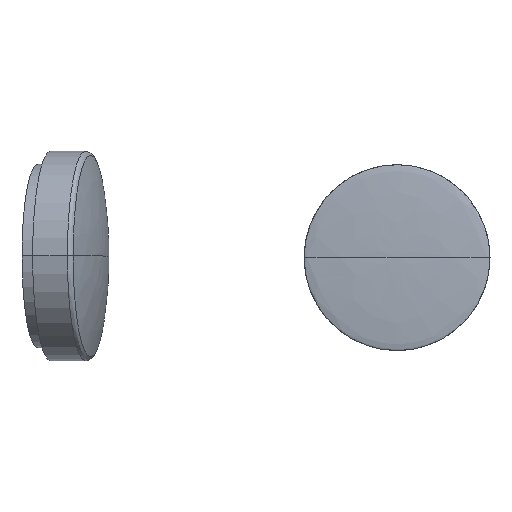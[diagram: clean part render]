
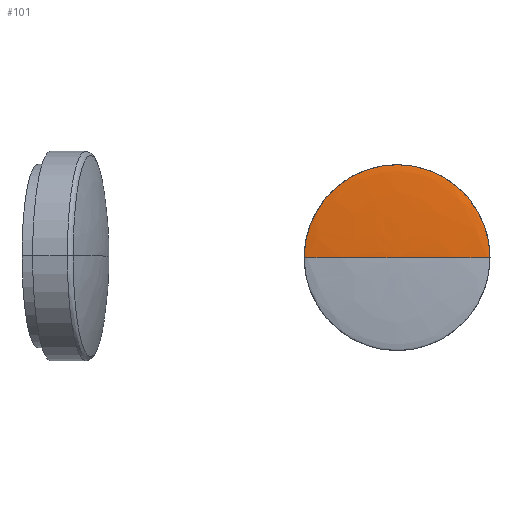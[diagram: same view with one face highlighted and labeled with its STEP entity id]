
A CAD part, top view. The second image highlights one B-rep face of the part: STEP entity #101.
In plain terms, the highlighted free-form (B-spline) face has degree [2, 2] with [5, 3] control points.
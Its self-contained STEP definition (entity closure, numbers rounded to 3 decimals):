
#25=CARTESIAN_POINT('',(275.4,350.,-457.2));
#26=VERTEX_POINT('',#25);
#27=CARTESIAN_POINT('',(240.0,350.,-455.25));
#28=VERTEX_POINT('',#27);
#29=CARTESIAN_POINT('',(275.4,350.,-457.2));
#30=CARTESIAN_POINT('',(275.4,350.,-455.25));
#31=CARTESIAN_POINT('',(240.0,350.,-455.25));
#39=(BOUNDED_CURVE()B_SPLINE_CURVE(2,(#29,#30,#31),.UNSPECIFIED.,.F.,.U.)CURVE()GEOMETRIC_REPRESENTATION_ITEM()QUASI_UNIFORM_CURVE()RATIONAL_B_SPLINE_CURVE((1.0,0.707,1.0))REPRESENTATION_ITEM(''));
#40=EDGE_CURVE('',#26,#28,#39,.T.);
#42=CARTESIAN_POINT('',(204.6,350.,-457.2));
#43=VERTEX_POINT('',#42);
#44=CARTESIAN_POINT('',(204.6,350.,-457.2));
#45=CARTESIAN_POINT('',(204.6,350.,-455.25));
#46=CARTESIAN_POINT('',(240.0,350.,-455.25));
#54=(BOUNDED_CURVE()B_SPLINE_CURVE(2,(#44,#45,#46),.UNSPECIFIED.,.F.,.U.)CURVE()GEOMETRIC_REPRESENTATION_ITEM()QUASI_UNIFORM_CURVE()RATIONAL_B_SPLINE_CURVE((1.0,0.707,1.0))REPRESENTATION_ITEM(''));
#55=EDGE_CURVE('',#43,#28,#54,.T.);
#67=CARTESIAN_POINT('',(275.4,350.,-457.2));
#68=CARTESIAN_POINT('',(275.4,385.4,-457.2));
#69=CARTESIAN_POINT('',(240.,385.4,-457.2));
#70=CARTESIAN_POINT('',(204.6,385.4,-457.2));
#71=CARTESIAN_POINT('',(204.6,350.,-457.2));
#72=CARTESIAN_POINT('',(275.4,350.,-455.25));
#73=CARTESIAN_POINT('',(275.4,385.4,-455.25));
#74=CARTESIAN_POINT('',(240.,385.4,-455.25));
#75=CARTESIAN_POINT('',(204.6,385.4,-455.25));
#76=CARTESIAN_POINT('',(204.6,350.,-455.25));
#77=CARTESIAN_POINT('',(240.0,350.,-455.25));
#78=CARTESIAN_POINT('',(240.,350.,-455.25));
#79=CARTESIAN_POINT('',(240.0,350.,-455.25));
#80=CARTESIAN_POINT('',(240.,350.,-455.25));
#81=CARTESIAN_POINT('',(240.0,350.,-455.25));
#89=(BOUNDED_SURFACE()B_SPLINE_SURFACE(2,2,((#67,#72,#77),(#68,#73,#78),(#69,#74,#79),(#70,#75,#80),(#71,#76,#81)),.UNSPECIFIED.,.F.,.F.,.U.)B_SPLINE_SURFACE_WITH_KNOTS((3,2,3),(3,3),(0.0,0.5,1.0),(0.0,1.0),.UNSPECIFIED.)GEOMETRIC_REPRESENTATION_ITEM()RATIONAL_B_SPLINE_SURFACE(((1.0,0.707,1.0),(0.707,0.5,0.707),(1.0,0.707,1.0),(0.707,0.5,0.707),(1.0,0.707,1.0)))REPRESENTATION_ITEM('')SURFACE());
#90=CARTESIAN_POINT('',(240.0,350.,-457.2));
#91=DIRECTION('',(0.,0.,1.0));
#92=DIRECTION('',(1.0,0.,0.0));
#93=AXIS2_PLACEMENT_3D('',#90,#91,#92);
#94=CIRCLE('',#93,35.4);
#95=EDGE_CURVE('',#26,#43,#94,.T.);
#96=ORIENTED_EDGE('',*,*,#95,.T.);
#97=ORIENTED_EDGE('',*,*,#55,.T.);
#98=ORIENTED_EDGE('',*,*,#40,.F.);
#99=EDGE_LOOP('',(#96,#97,#98));
#100=FACE_OUTER_BOUND('',#99,.T.);
#101=ADVANCED_FACE('',(#100),#89,.T.);
